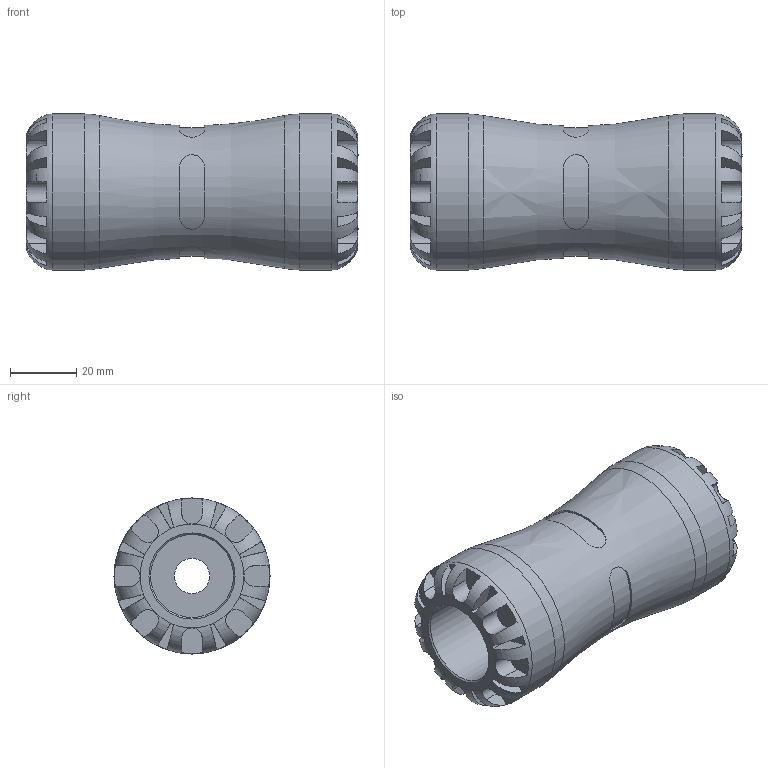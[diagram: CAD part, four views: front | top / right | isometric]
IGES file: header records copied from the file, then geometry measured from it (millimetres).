
Global section: file name: 1001M6025005.ipt; native system: Autodesk Inventor 2015; preprocessor: unknown; author: KIM; date: 20170122.104722; units: millimetre
Bounding box: 100 x 47 x 47 mm (x, y, z)
Volume: 115533.5 mm3; surface area: 24404.2 mm2
Topology: 1 solids, 1 shells, 164 faces, 427 edges, 270 vertices
Faces by surface type: plane 108, revolution 34, cylinder 22
Full cylindrical faces by diameter (mm): 47 x2
